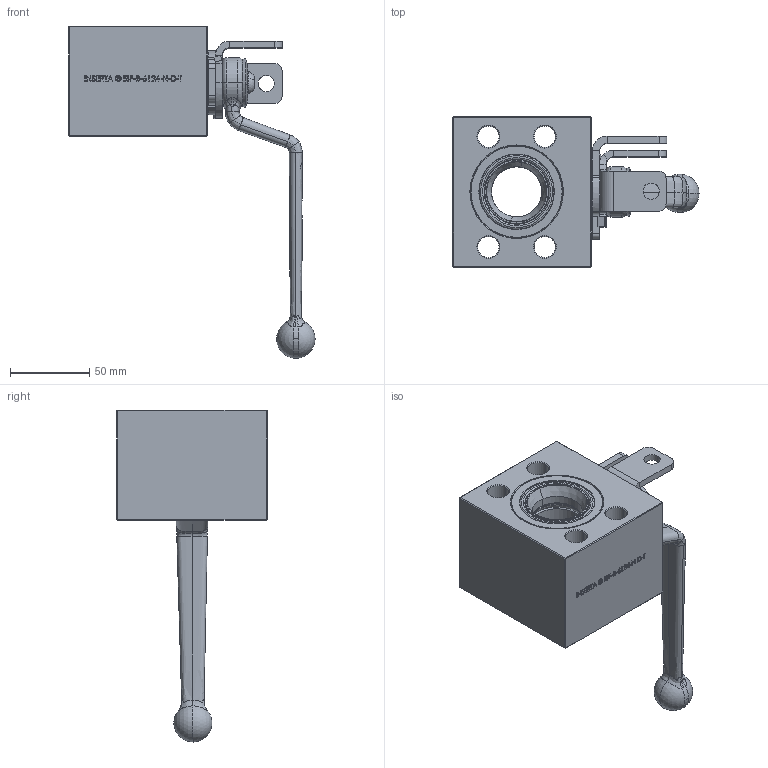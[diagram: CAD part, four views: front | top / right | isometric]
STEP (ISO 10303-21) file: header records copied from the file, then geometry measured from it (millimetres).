
FILE_DESCRIPTION (( 'STEP AP214' ), '1' );
FILE_NAME ('IBF-B-6124-N-D-T Open.STEP', '2025-12-02T15:00:39', ( '' ), ( '' ), 'SwSTEP 2.0', 'SolidWorks 2023', '' );
FILE_SCHEMA (( 'AUTOMOTIVE_DESIGN' ));
Length unit declared in the file: inch
Products named in the file (1): IBF-B-6124-N-D-T Open
Bounding box: 155.79 x 95.5 x 210.08 mm (x, y, z)
Volume: 539341.6 mm3; surface area: 119663.6 mm2
Topology: 2 solids, 2 shells, 1039 faces, 2839 edges, 1845 vertices
Faces by surface type: plane 510, bspline 199, cylinder 157, cone 78, torus 72, sphere 23
Entity records: 57717 total; most frequent: CARTESIAN_POINT 33101, ORIENTED_EDGE 5662, DIRECTION 4292, EDGE_CURVE 2831, VERTEX_POINT 1843, AXIS2_PLACEMENT_3D 1446, VECTOR 1400, LINE 1400
